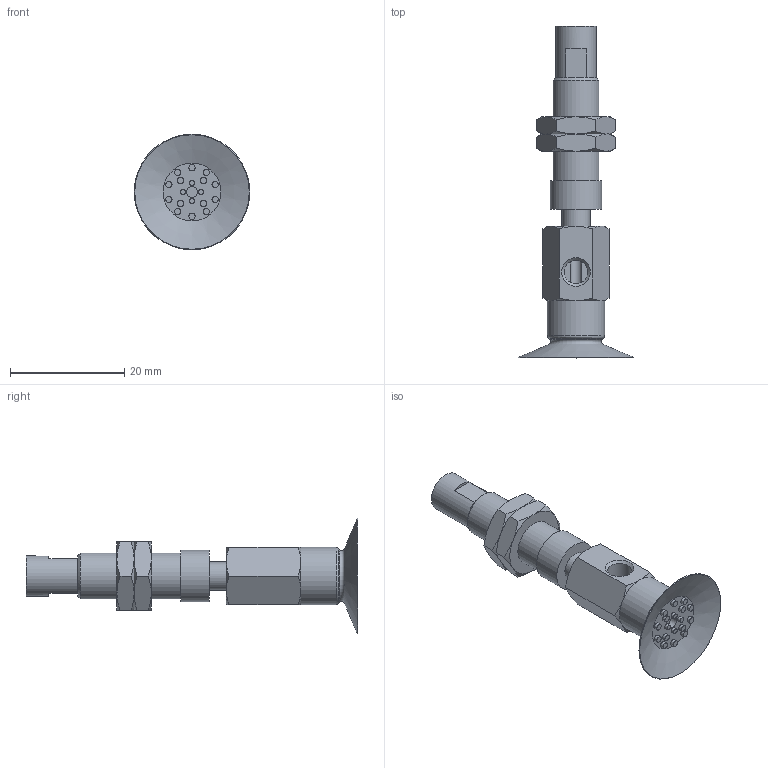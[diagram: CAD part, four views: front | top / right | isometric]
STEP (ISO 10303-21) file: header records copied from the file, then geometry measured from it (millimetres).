
FILE_DESCRIPTION(('STEP AP203'),'1');
FILE_NAME('.stp','2025-02-14T07:07:16',(' '),(' '),'Spatial InterOp 3D',' ',' ');
FILE_SCHEMA(('CONFIG_CONTROL_DESIGN'));
Length unit declared in the file: millimetre
Products named in the file (6): BNABPAYS-20A-3-※; NAPAYS-20A-3--M; NAPAYS-20A-3--F; Nut-10A-S; CONNECTOR-20A-3-PA; BPAG-20A-※_3D
Assembly tree (6 placements, depth 2):
  BNABPAYS-20A-3-※
    NAPAYS-20A-3--M
    NAPAYS-20A-3--F
    Nut-10A-S  x2
    CONNECTOR-20A-3-PA
    BPAG-20A-※_3D
Bounding box: 20.19 x 58 x 20.19 mm (x, y, z)
Volume: 3707.1 mm3; surface area: 4631.8 mm2
Topology: 6 solids, 6 shells, 165 faces, 326 edges, 200 vertices
Faces by surface type: plane 69, cone 51, cylinder 35, torus 10
Full cylindrical faces by diameter (mm): 0.9 x4, 1.1 x14, 2 x2, 4 x2, 4.134 x2, 5 x3, 6 x2, 7 x1, 7.188 x2, 8 x1, 9 x1, 10 x1
Entity records: 3828 total; most frequent: CARTESIAN_POINT 873, DIRECTION 576, ORIENTED_EDGE 426, AXIS2_PLACEMENT_3D 268, EDGE_LOOP 234, EDGE_CURVE 213, FACE_OUTER_BOUND 186, VERTEX_POINT 163
